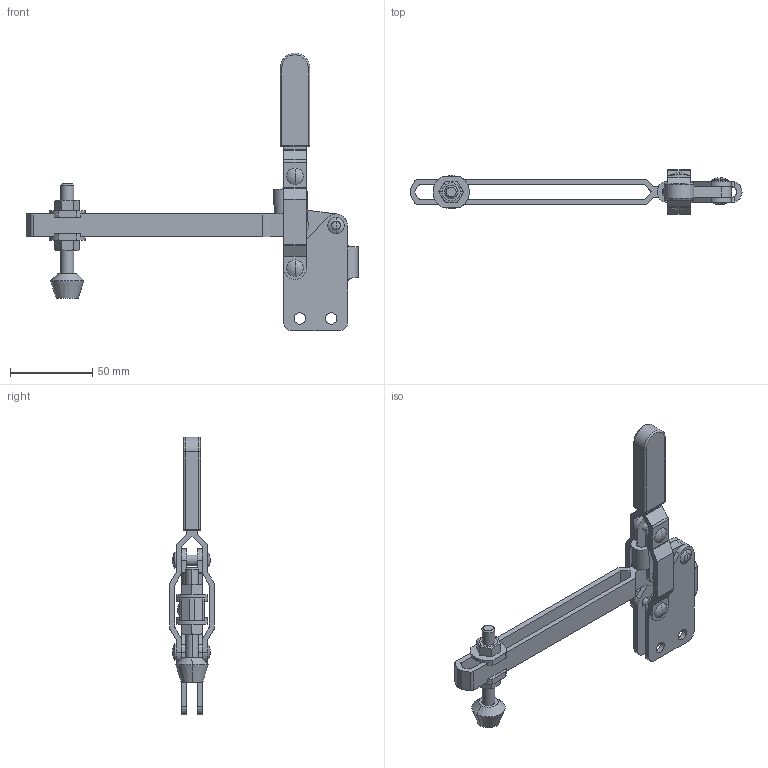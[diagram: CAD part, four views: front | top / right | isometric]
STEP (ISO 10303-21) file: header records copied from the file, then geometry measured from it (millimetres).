
FILE_DESCRIPTION(('CATIA V5 STEP Exchange'),'2;1');
FILE_NAME('D:\Model\toggle\toggle_standard\KJF_018_13S.stp','2005-06-24T04:59:02+00:00',('none'),('none'),'CATIA Version 5 Release 11 (IN-9)','CATIA V5 STEP AP203',' none');
FILE_SCHEMA(('CONFIG_CONTROL_DESIGN'));
Length unit declared in the file: millimetre
Products named in the file (1): Part1
Bounding box: 202.4 x 27.2 x 169.2 mm (x, y, z)
Volume: 67025.4 mm3; surface area: 44187.2 mm2
Topology: 13 solids, 13 shells, 267 faces, 689 edges, 438 vertices
Faces by surface type: plane 124, cylinder 103, sphere 24, cone 6, bspline 6, torus 4
Entity records: 7933 total; most frequent: CARTESIAN_POINT 1797, ORIENTED_EDGE 1338, DIRECTION 1035, EDGE_CURVE 669, AXIS2_PLACEMENT_3D 466, VERTEX_POINT 438, VECTOR 371, LINE 371
